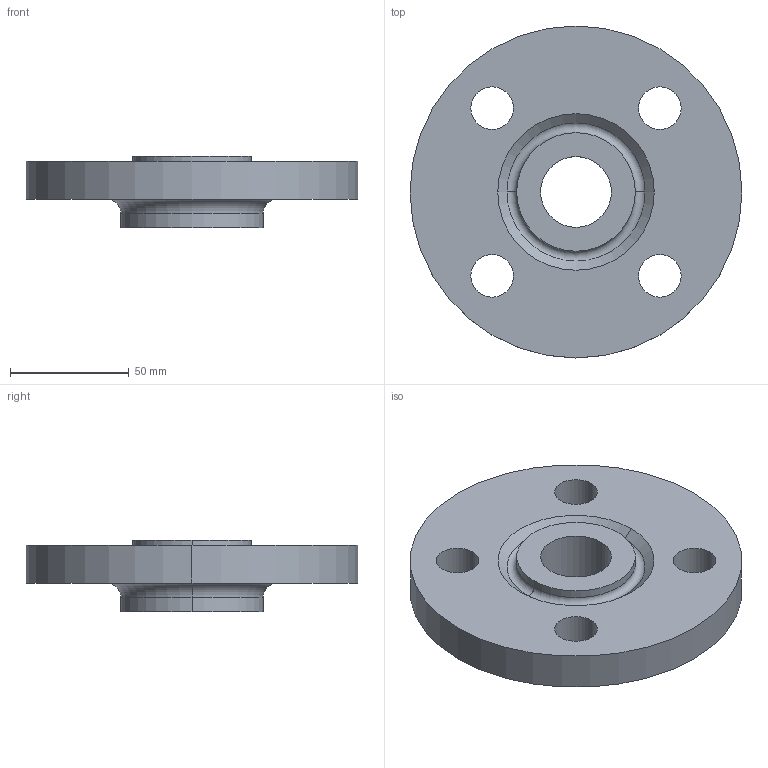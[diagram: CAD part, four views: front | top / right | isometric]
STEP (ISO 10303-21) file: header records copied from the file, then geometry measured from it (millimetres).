
FILE_DESCRIPTION (( 'STEP AP214' ), '1' );
FILE_NAME ('PN40 DN32 Type 13 - Type H Face.STEP', '2018-12-29T23:51:16', ( '' ), ( '' ), 'SwSTEP 2.0', 'SolidWorks 2019', '' );
FILE_SCHEMA (( 'AUTOMOTIVE_DESIGN' ));
Length unit declared in the file: millimetre
Products named in the file (1): PN40 DN32 Type 13 - Type H Face
Bounding box: 140 x 140 x 30 mm (x, y, z)
Volume: 244625.5 mm3; surface area: 43666.9 mm2
Topology: 1 solids, 1 shells, 26 faces, 60 edges, 38 vertices
Faces by surface type: cylinder 16, torus 4, plane 4, cone 2
Entity records: 812 total; most frequent: DIRECTION 156, CARTESIAN_POINT 125, ORIENTED_EDGE 120, AXIS2_PLACEMENT_3D 69, EDGE_CURVE 60, CIRCLE 42, VERTEX_POINT 38, EDGE_LOOP 38
